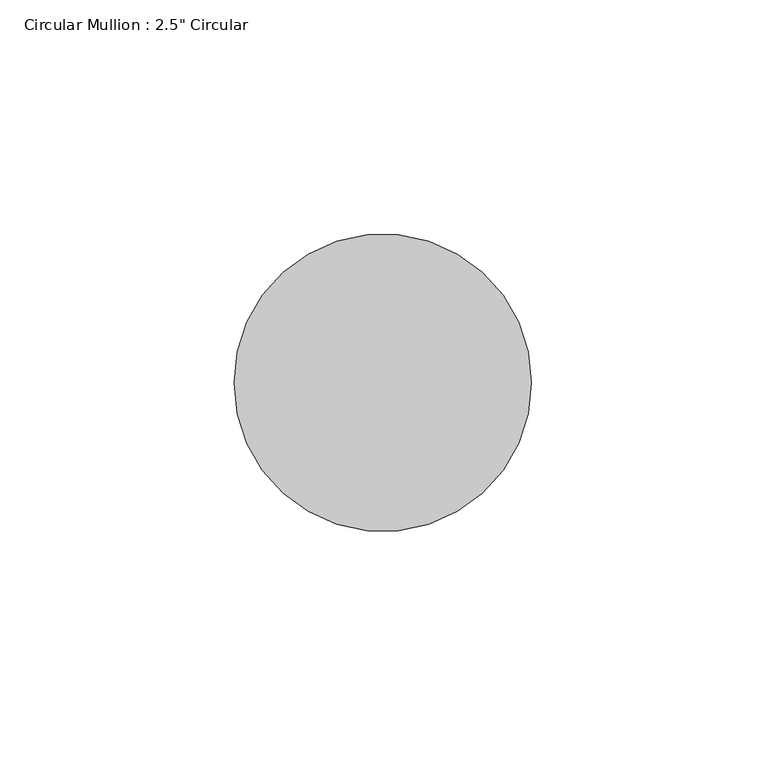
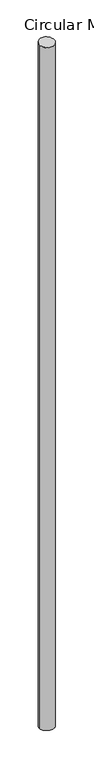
"""IFC4 building model written with IfcOpenShell, lengths in millimetres: member geometry."""

from ifc_helpers import new_model, si_unit, frame, origin, origin_with_axes, place, context, project, spatial, ellipse_curve, source, transform, mapped, element, save
from ifc_brep_helpers import plane_surface, cylinder_surface, advanced_brep


def member_d08a8a15(model_context):
    return source(origin(), model_context, "Body", "AdvancedBrep", [
        advanced_brep(
        [(-31.75, 0.0, 0.4360138), (31.75, 0.0, -0.4360138), (31.75, 0.0, -3042.5734794), (-31.75, 0.0, -3043.3383422)],
        [
            (0, 1, ellipse_curve(frame((0.0, 0.0, 0.0), z_axis=(-0.013690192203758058, 0.07743724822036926, -0.9969032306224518), x_axis=(-0.17355199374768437, 0.9816800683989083, 0.07863808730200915)), 31.8486279, 31.75)),
            (1, 2),
            (2, 3, ellipse_curve(frame((0.0, 0.0, -3042.9559108), z_axis=(-0.012014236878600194, 0.07050503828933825, 0.9974390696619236), x_axis=(0.16755095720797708, -0.983265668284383, 0.07152134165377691)), 31.8315183, 31.75)),
            (3, 0),
            (1, 0, ellipse_curve(frame((0.0, 0.0, 0.0), z_axis=(-0.013690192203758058, 0.07743724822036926, -0.9969032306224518), x_axis=(-0.17355199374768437, 0.9816800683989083, 0.07863808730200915)), 31.8486279, 31.75)),
            (3, 2, ellipse_curve(frame((0.0, 0.0, -3042.9559108), z_axis=(-0.012014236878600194, 0.07050503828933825, 0.9974390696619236), x_axis=(0.16755095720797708, -0.983265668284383, 0.07152134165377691)), 31.8315183, 31.75)),
        ],
        [
            cylinder_surface(origin_with_axes(), 31.75),
            plane_surface(frame((300.1455664, 53.0629715, 0.0), z_axis=(0.013690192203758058, -0.07743724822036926, 0.9969032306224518), x_axis=(0.17355199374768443, -0.9816800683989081, -0.07863808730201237))),
            plane_surface(frame((300.4688555, 51.2006531, -3042.9559108), z_axis=(0.012014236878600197, -0.07050503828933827, -0.9974390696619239), x_axis=(0.16755095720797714, -0.9832656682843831, 0.07152134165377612))),
        ],
        [
            (0, [[1, 2, 3, 4]]),
            (0, [[5, -4, 6, -2]]),
            (1, [[-1, -5]]),
            (2, [[-6, -3]]),
        ],
    ),
    ])


if __name__ == "__main__":
    model = new_model("IFC4")
    model_context = context("Model", 3, world=origin())
    ifc_project = project(units=[si_unit("LENGTHUNIT", "METRE", prefix="MILLI")], contexts=[model_context])
    site = spatial("IfcSite", under=ifc_project)
    building = spatial("IfcBuilding", under=site)
    placement = place(None, origin())
    member_shape = member_d08a8a15(model_context)
    element("IfcMember", 1, ObjectType="Circular Mullion : 2.5\" Circular", at=placement, inside=building, context=model_context, shape_type="MappedRepresentation", body=[
        mapped(member_shape, transform((0.0, 0.0, 0.0), x_axis=(1.0, 0.0, 0.0), y_axis=(0.0, 1.0, 0.0), z_axis=(0.0, 0.0, 1.0))),
    ])
    save(model, "model.ifc")
